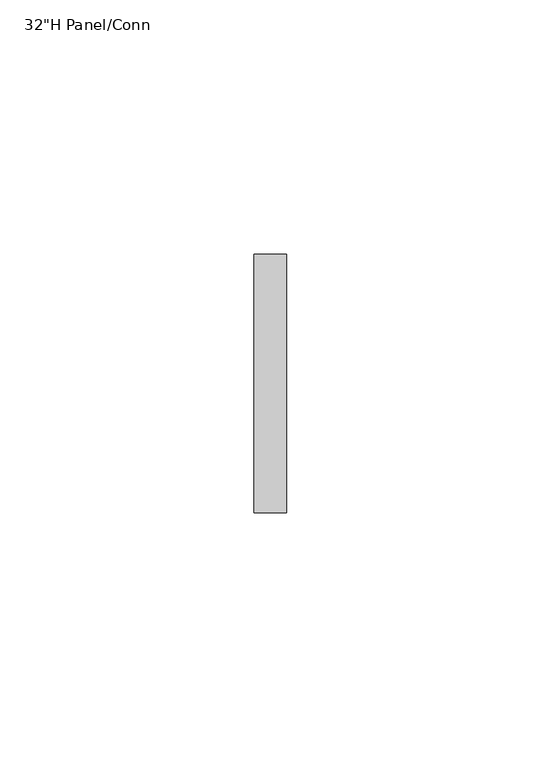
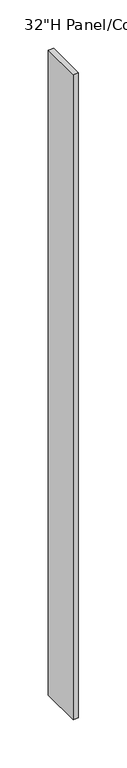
"""IFC4 building model written with IfcOpenShell, lengths in millimetres: furniture geometry."""

from ifc_helpers import new_model, si_unit, frame, origin, place, context, project, spatial, polyline, outline, extrude, source, transform, mapped, element, save


def furniture_2df44bcc(model_context):
    return source(origin(), model_context, "Body", "SweptSolid", [
        extrude(outline(polyline([(-60.5209988, 104.9709924), (-60.5209967, 54.1709916), (-66.8709967, 54.1709914), (-66.8709988, 104.9709922), (-60.5209988, 104.9709924)])), frame((0.0, 0.0, 1361.8210008), z_axis=(0.0, 0.0, 1.0), x_axis=(1.0, 0.0, 0.0)), (0.0, 0.0, 1.0), 812.8),
    ])


if __name__ == "__main__":
    model = new_model("IFC4")
    model_context = context("Model", 3, world=origin())
    ifc_project = project(units=[si_unit("LENGTHUNIT", "METRE", prefix="MILLI")], contexts=[model_context])
    site = spatial("IfcSite", under=ifc_project)
    building = spatial("IfcBuilding", under=site)
    placement = place(None, origin())
    furniture_shape = furniture_2df44bcc(model_context)
    element("IfcFurniture", 1, ObjectType="HermanMiller_ActionOffice_AO259_AO272_FinishedEndChangeOfHeight : 32\"H Panel/Conn", at=placement, inside=building, context=model_context, shape_type="MappedRepresentation", body=[
        mapped(furniture_shape, transform((0.0, 0.0, 0.0), x_axis=(1.0, 0.0, 0.0), y_axis=(0.0, 1.0, 0.0), z_axis=(0.0, 0.0, 1.0))),
    ])
    save(model, "model.ifc")
